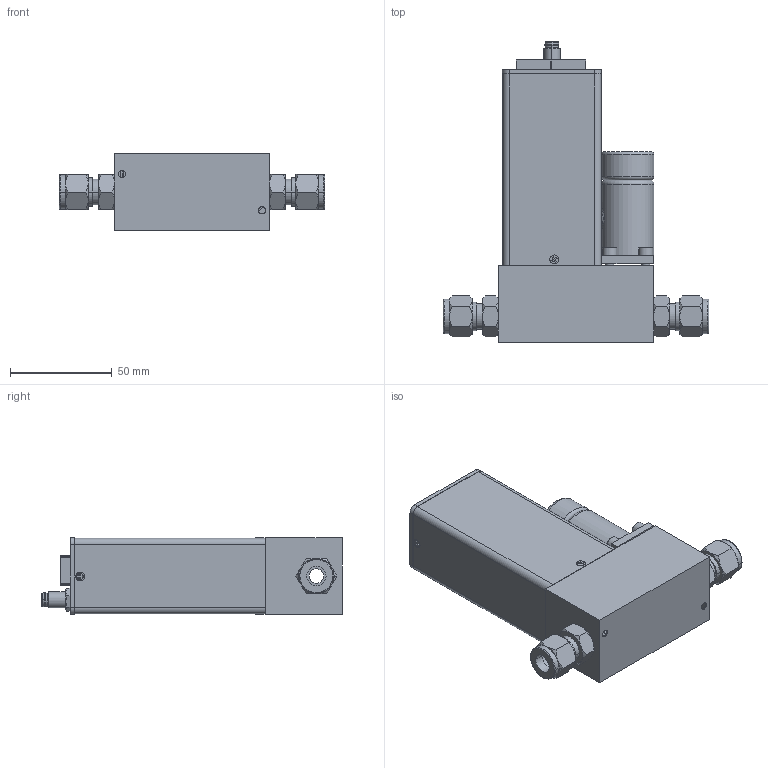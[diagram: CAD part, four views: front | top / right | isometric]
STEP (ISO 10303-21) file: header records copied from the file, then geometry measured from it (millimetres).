
FILE_DESCRIPTION (( 'STEP AP203' ), '1' );
FILE_NAME ('SLA5850-7-1D-1-A-REVB.STEP', '2022-01-07T15:40:57', ( '' ), ( '' ), 'SwSTEP 2.0', 'SolidWorks 2020', '' );
FILE_SCHEMA (( 'CONFIG_CONTROL_DESIGN' ));
Products named in the file (1): SLA5850-7-1D-1-A-REVB
Bounding box: 130.71 x 147.97 x 38.07 mm (x, y, z)
Volume: 53494.3 mm3; surface area: 94190.7 mm2
Topology: 47 solids, 47 shells, 2034 faces, 5319 edges, 3442 vertices
Faces by surface type: plane 1285, cylinder 468, cone 142, bspline 71, torus 46, sphere 22
Entity records: 66836 total; most frequent: CARTESIAN_POINT 16522, ORIENTED_EDGE 10580, DIRECTION 10143, EDGE_CURVE 5290, VECTOR 3757, LINE 3757, VERTEX_POINT 3435, AXIS2_PLACEMENT_3D 3193
